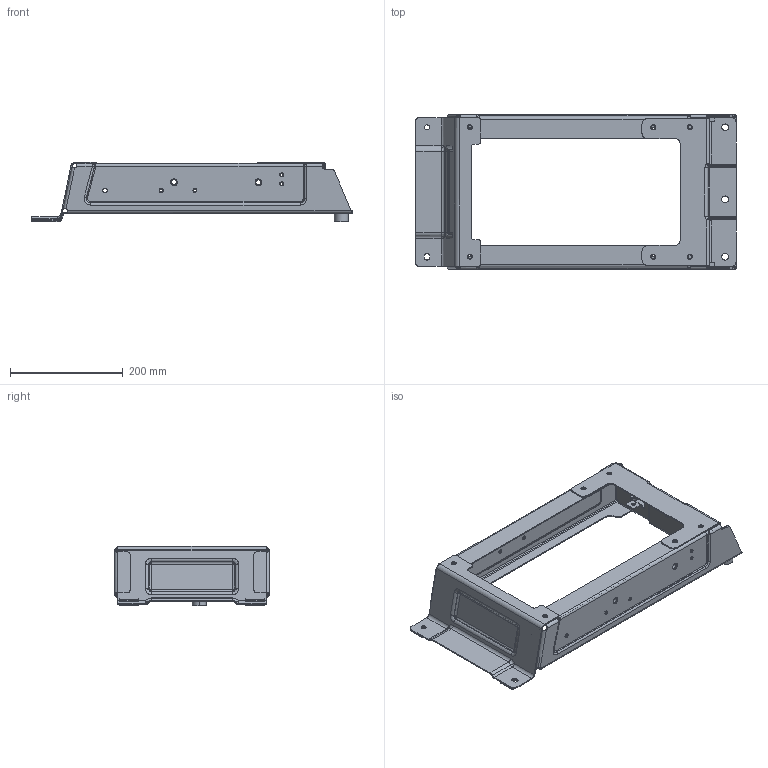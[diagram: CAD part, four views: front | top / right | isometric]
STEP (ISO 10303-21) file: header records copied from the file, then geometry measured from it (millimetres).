
FILE_DESCRIPTION(('CATIA V5 STEP Exchange'),'2;1');
FILE_NAME('C:\Users\Administrator\Desktop\A6底支架20230919\SHT0016014.stp','2023-09-19T13:46:53+00:00',('none'),('none'),'CATIA Version 5 Release 20 GA (IN-10)','CATIA V5 STEP AP214','none');
FILE_SCHEMA(('AUTOMOTIVE_DESIGN { 1 0 10303 214 1 1 1 1 }'));
Length unit declared in the file: millimetre
Products named in the file (1): SHT0016014
Bounding box: 569.84 x 275 x 105.5 mm (x, y, z)
Volume: 530233.3 mm3; surface area: 533157.9 mm2
Topology: 19 solids, 19 shells, 1238 faces, 3336 edges, 2100 vertices
Faces by surface type: cylinder 570, plane 362, cone 148, torus 54, sphere 50, bspline 48, extrusion 6
Entity records: 42207 total; most frequent: CARTESIAN_POINT 13616, ORIENTED_EDGE 6572, DIRECTION 4567, EDGE_CURVE 3286, AXIS2_PLACEMENT_3D 2228, VERTEX_POINT 2100, VECTOR 1387, LINE 1381
